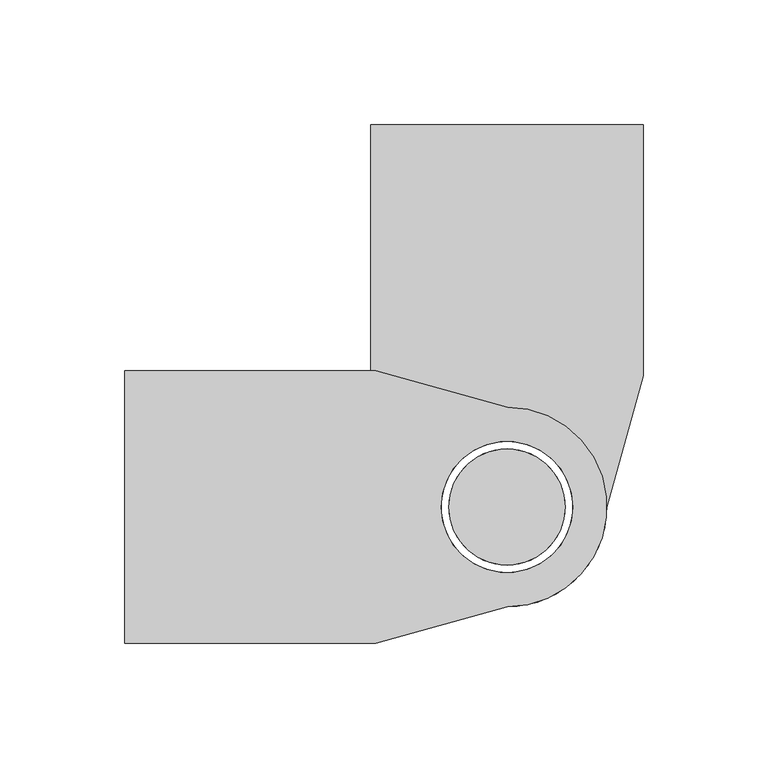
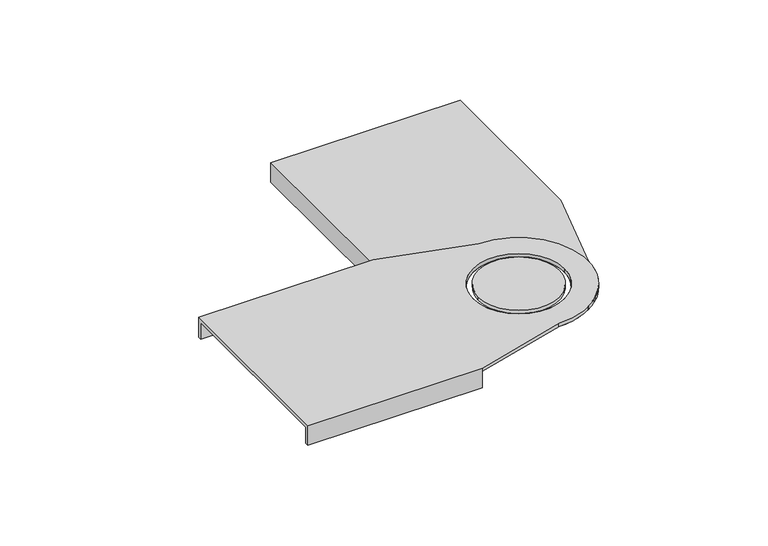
"""IFC4 building model written with IfcOpenShell, lengths in millimetres: cable carrier fitting geometry, BAKS_LD_BEND_Articulated connector_LGC : LGC_H100."""

from ifc_helpers import new_model, si_unit, frame, origin, place, context, project, spatial, polyline, circle_curve, source, transform, mapped, element, save
from ifc_brep_helpers import plane_surface, cylinder_surface, revolved_surface, advanced_brep


def cable_carrier_fitting_425c15d6(model_context):
    return source(origin(), model_context, "Body", "AdvancedBrep", [
        advanced_brep(
        [(-153.0, 54.5, 2.0), (-153.0, -54.5, 2.0), (-52.5, -54.5, 2.0), (0.0, -40.0, 2.0), (0.0, 40.0, 2.0), (-52.5, 54.5, 2.0), (26.25, 0.0, 2.0), (-26.25, 0.0, 2.0), (-52.5, -54.5, 0.0), (-52.5, -52.5, 0.0), (-153.0, -52.5, 0.0), (-153.0, 52.5, 0.0), (-52.5, 52.5, 0.0), (-52.5, 54.5, 0.0), (0.0, 40.0, 0.0), (0.0, -40.0, 0.0), (-26.25, 0.0, 0.0), (26.25, 0.0, 0.0), (-52.5, 54.5, -10.0), (-153.0, 54.5, -10.0), (-153.0, -54.5, -10.0), (-52.5, -54.5, -10.0), (-153.0, 52.5, -10.0), (-153.0, -52.5, -10.0), (-52.5, -52.5, -10.0), (-52.5, 52.5, -10.0)],
        [
            (0, 1),
            (1, 2),
            (2, 3),
            (3, 4, circle_curve(frame((0.0, 0.0, 2.0), z_axis=(0.0, 0.0, 1.0), x_axis=(-1.0, 0.0, 0.0)), 40.0)),
            (4, 5),
            (5, 0),
            (6, 7, circle_curve(frame((0.0, 0.0, 2.0), z_axis=(0.0, 0.0, -1.0), x_axis=(-1.0, 0.0, 0.0)), 26.25)),
            (7, 6, circle_curve(frame((0.0, 0.0, 2.0), z_axis=(0.0, 0.0, -1.0), x_axis=(-1.0, 0.0, 0.0)), 26.25)),
            (8, 9),
            (9, 10),
            (10, 11),
            (11, 12),
            (12, 13),
            (13, 14),
            (14, 15, circle_curve(frame((0.0, 0.0, 0.0), z_axis=(0.0, 0.0, -1.0), x_axis=(-1.0, 0.0, 0.0)), 40.0)),
            (15, 8),
            (16, 17, circle_curve(frame((0.0, 0.0, 0.0), z_axis=(0.0, 0.0, 1.0), x_axis=(-1.0, 0.0, 0.0)), 26.25)),
            (17, 16, circle_curve(frame((0.0, 0.0, 0.0), z_axis=(0.0, 0.0, 1.0), x_axis=(-1.0, 0.0, 0.0)), 26.25)),
            (5, 13),
            (13, 18),
            (18, 19),
            (19, 0),
            (1, 20),
            (20, 21),
            (21, 8),
            (8, 2),
            (19, 22),
            (22, 11),
            (10, 23),
            (23, 20),
            (7, 16),
            (17, 6),
            (4, 14),
            (3, 15),
            (23, 24),
            (24, 21),
            (9, 24),
            (18, 25),
            (25, 22),
            (12, 25),
        ],
        [
            plane_surface(frame((-52.5, 54.5, 2.0), z_axis=(0.0, 0.0, 1.0), x_axis=(1.0, 0.0, 0.0))),
            plane_surface(frame((-52.5, 54.5, 0.0), z_axis=(0.0, 0.0, -1.0), x_axis=(-1.0, 0.0, 0.0))),
            plane_surface(frame((-153.0, 54.5, 2.0), z_axis=(0.0, 1.0, 0.0), x_axis=(0.0, 0.0, -1.0))),
            plane_surface(frame((-52.5, -54.5, 2.0), z_axis=(0.0, -1.0, 0.0), x_axis=(0.0, 0.0, -1.0))),
            plane_surface(frame((-153.0, -54.5, 2.0), z_axis=(-1.0, 0.0, 0.0), x_axis=(0.0, 0.0, -1.0))),
            revolved_surface(polyline([(-26.25, 0.0, 2.0), (-26.25, 0.0, 0.0)]), (0.0, 0.0, 0.0), (0.0, 0.0, 1.0)),
            plane_surface(frame((-52.5, 54.5, 2.0), z_axis=(0.266223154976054, 0.9639114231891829, 0.0), x_axis=(0.0, 0.0, -1.0))),
            cylinder_surface(frame((0.0, 0.0, 0.0), z_axis=(0.0, 0.0, 1.0), x_axis=(-1.0, 0.0, 0.0)), 40.0),
            plane_surface(frame((0.0, -40.0, 2.0), z_axis=(0.26622315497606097, -0.963911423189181, 0.0), x_axis=(0.0, 0.0, -1.0))),
            plane_surface(frame((-52.5, -52.5, -10.0), z_axis=(0.0, 0.0, -1.0), x_axis=(-1.0, 0.0, 0.0))),
            plane_surface(frame((-153.0, -52.5, 0.0), z_axis=(0.0, 1.0, 0.0), x_axis=(0.0, 0.0, -1.0))),
            plane_surface(frame((-52.5, -52.5, 0.0), z_axis=(1.0, 0.0, 0.0), x_axis=(0.0, 0.0, -1.0))),
            plane_surface(frame((-52.5, 54.5, -10.0), z_axis=(0.0, 0.0, -1.0), x_axis=(-1.0, 0.0, 0.0))),
            plane_surface(frame((-52.5, 54.5, 0.0), z_axis=(1.0, 0.0, 0.0), x_axis=(0.0, 0.0, -1.0))),
            plane_surface(frame((-52.5, 52.5, 0.0), z_axis=(0.0, -1.0, 0.0), x_axis=(0.0, 0.0, -1.0))),
        ],
        [
            (0, [[1, 2, 3, 4, 5, 6], [7, 8]]),
            (1, [[9, 10, 11, 12, 13, 14, 15, 16], [17, 18]]),
            (2, [[19, 20, 21, 22, -6]]),
            (3, [[23, 24, 25, 26, -2]]),
            (4, [[27, 28, -11, 29, 30, -23, -1, -22]]),
            (5, [[-8, 31, -18, 32]]),
            (5, [[-17, -31, -7, -32]]),
            (6, [[33, -14, -19, -5]]),
            (7, [[34, -15, -33, -4]]),
            (8, [[-26, -16, -34, -3]]),
            (9, [[35, 36, -24, -30]]),
            (10, [[-29, -10, 37, -35]]),
            (11, [[-37, -9, -25, -36]]),
            (12, [[-21, 38, 39, -27]]),
            (13, [[-20, -13, 40, -38]]),
            (14, [[-40, -12, -28, -39]]),
        ],
    ),
        advanced_brep(
        [(23.25, 0.0, 2.0), (-23.25, 0.0, 2.0), (-23.25, 0.0, 0.0), (23.25, 0.0, 0.0)],
        [
            (0, 1, circle_curve(frame((0.0, 0.0, 2.0), z_axis=(0.0, 0.0, 1.0), x_axis=(-1.0, 0.0, 0.0)), 23.25)),
            (1, 0, circle_curve(frame((0.0, 0.0, 2.0), z_axis=(0.0, 0.0, 1.0), x_axis=(-1.0, 0.0, 0.0)), 23.25)),
            (2, 3, circle_curve(frame((0.0, 0.0, 0.0), z_axis=(0.0, 0.0, -1.0), x_axis=(-1.0, 0.0, 0.0)), 23.25)),
            (3, 2, circle_curve(frame((0.0, 0.0, 0.0), z_axis=(0.0, 0.0, -1.0), x_axis=(-1.0, 0.0, 0.0)), 23.25)),
            (1, 2),
            (3, 0),
        ],
        [
            plane_surface(frame((-52.5, 54.5, 2.0), z_axis=(0.0, 0.0, 1.0), x_axis=(1.0, 0.0, 0.0))),
            plane_surface(frame((-52.5, 54.5, 0.0), z_axis=(0.0, 0.0, -1.0), x_axis=(-1.0, 0.0, 0.0))),
            cylinder_surface(frame((0.0, 0.0, 0.0), z_axis=(0.0, 0.0, -1.0), x_axis=(-1.0, 0.0, 0.0)), 23.25),
        ],
        [
            (0, [[1, 2]]),
            (1, [[3, 4]]),
            (2, [[-2, 5, -4, 6]]),
            (2, [[-3, -5, -1, -6]]),
        ],
    ),
        advanced_brep(
        [(-54.5, 153.0, 2.0), (-54.5, 52.5, 2.0), (-40.0, 0.0, 2.0), (40.0, 0.0, 2.0), (54.5, 52.5, 2.0), (54.5, 153.0, 2.0), (0.0, -26.25, 2.0), (0.0, 26.25, 2.0), (54.5, 52.5, 0.0), (40.0, 0.0, 0.0), (-40.0, 0.0, 0.0), (-54.5, 52.5, 0.0), (-52.5, 52.5, 0.0), (-52.5, 153.0, 0.0), (52.5, 153.0, 0.0), (52.5, 52.5, 0.0), (0.0, 26.25, 0.0), (0.0, -26.25, 0.0), (-54.5, 153.0, -10.0), (-54.5, 52.5, -10.0), (54.5, 52.5, -10.0), (54.5, 153.0, -10.0), (52.5, 153.0, -10.0), (-52.5, 153.0, -10.0), (52.5, 52.5, -10.0), (-52.5, 52.5, -10.0)],
        [
            (0, 1),
            (1, 2),
            (2, 3, circle_curve(frame((0.0, 0.0, 2.0), z_axis=(0.0, 0.0, 1.0), x_axis=(0.0, 1.0, 0.0)), 40.0)),
            (3, 4),
            (4, 5),
            (5, 0),
            (6, 7, circle_curve(frame((0.0, 0.0, 2.0), z_axis=(0.0, 0.0, -1.0), x_axis=(0.0, 1.0, 0.0)), 26.25)),
            (7, 6, circle_curve(frame((0.0, 0.0, 2.0), z_axis=(0.0, 0.0, -1.0), x_axis=(0.0, 1.0, 0.0)), 26.25)),
            (8, 9),
            (9, 10, circle_curve(frame((0.0, 0.0, 0.0), z_axis=(0.0, 0.0, -1.0), x_axis=(0.0, 1.0, 0.0)), 40.0)),
            (10, 11),
            (11, 12),
            (12, 13),
            (13, 14),
            (14, 15),
            (15, 8),
            (16, 17, circle_curve(frame((0.0, 0.0, 0.0), z_axis=(0.0, 0.0, 1.0), x_axis=(0.0, 1.0, 0.0)), 26.25)),
            (17, 16, circle_curve(frame((0.0, 0.0, 0.0), z_axis=(0.0, 0.0, 1.0), x_axis=(0.0, 1.0, 0.0)), 26.25)),
            (0, 18),
            (18, 19),
            (19, 11),
            (11, 1),
            (4, 8),
            (8, 20),
            (20, 21),
            (21, 5),
            (21, 22),
            (22, 14),
            (13, 23),
            (23, 18),
            (6, 17),
            (16, 7),
            (10, 2),
            (9, 3),
            (20, 24),
            (24, 22),
            (24, 15),
            (23, 25),
            (25, 19),
            (25, 12),
        ],
        [
            plane_surface(frame((-54.5, 52.5, 2.0), z_axis=(0.0, 0.0, 1.0), x_axis=(0.0, -1.0, 0.0))),
            plane_surface(frame((-54.5, 52.5, 0.0), z_axis=(0.0, 0.0, -1.0), x_axis=(0.0, 1.0, 0.0))),
            plane_surface(frame((-54.5, 153.0, 2.0), z_axis=(-1.0, 0.0, 0.0), x_axis=(0.0, 0.0, -1.0))),
            plane_surface(frame((54.5, 52.5, 2.0), z_axis=(1.0, 0.0, 0.0), x_axis=(0.0, 0.0, -1.0))),
            plane_surface(frame((54.5, 153.0, 2.0), z_axis=(0.0, 1.0, 0.0), x_axis=(0.0, 0.0, -1.0))),
            revolved_surface(polyline([(0.0, 26.25, 2.0), (0.0, 26.25, 0.0)]), (0.0, 0.0, 0.0), (0.0, 0.0, 1.0)),
            plane_surface(frame((-54.5, 52.5, 2.0), z_axis=(-0.9639114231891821, -0.26622315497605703, 0.0), x_axis=(0.0, 0.0, -1.0))),
            cylinder_surface(frame((0.0, 0.0, 0.0), z_axis=(0.0, 0.0, 1.0), x_axis=(0.0, 1.0, 0.0)), 40.0),
            plane_surface(frame((40.0, 0.0, 2.0), z_axis=(0.9639114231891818, -0.2662231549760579, 0.0), x_axis=(0.0, 0.0, -1.0))),
            plane_surface(frame((52.5, 52.5, -10.0), z_axis=(0.0, 0.0, -1.0), x_axis=(0.0, 1.0, 0.0))),
            plane_surface(frame((52.5, 153.0, 0.0), z_axis=(-1.0, 0.0, 0.0), x_axis=(0.0, 0.0, -1.0))),
            plane_surface(frame((52.5, 52.5, 0.0), z_axis=(0.0, -1.0, 0.0), x_axis=(0.0, 0.0, -1.0))),
            plane_surface(frame((-54.5, 52.5, -10.0), z_axis=(0.0, 0.0, -1.0), x_axis=(0.0, 1.0, 0.0))),
            plane_surface(frame((-54.5, 52.5, 0.0), z_axis=(0.0, -1.0, 0.0), x_axis=(0.0, 0.0, -1.0))),
            plane_surface(frame((-52.5, 52.5, 0.0), z_axis=(1.0, 0.0, 0.0), x_axis=(0.0, 0.0, -1.0))),
        ],
        [
            (0, [[1, 2, 3, 4, 5, 6], [7, 8]]),
            (1, [[9, 10, 11, 12, 13, 14, 15, 16], [17, 18]]),
            (2, [[-1, 19, 20, 21, 22]]),
            (3, [[-5, 23, 24, 25, 26]]),
            (4, [[-19, -6, -26, 27, 28, -14, 29, 30]]),
            (5, [[31, -17, 32, -7]]),
            (5, [[-31, -8, -32, -18]]),
            (6, [[-2, -22, -11, 33]]),
            (7, [[-3, -33, -10, 34]]),
            (8, [[-4, -34, -9, -23]]),
            (9, [[-27, -25, 35, 36]]),
            (10, [[-36, 37, -15, -28]]),
            (11, [[-35, -24, -16, -37]]),
            (12, [[-30, 38, 39, -20]]),
            (13, [[-39, 40, -12, -21]]),
            (14, [[-38, -29, -13, -40]]),
        ],
    ),
        advanced_brep(
        [(0.0, -23.25, 2.0), (0.0, 23.25, 2.0), (0.0, 23.25, 0.0), (0.0, -23.25, 0.0)],
        [
            (0, 1, circle_curve(frame((0.0, 0.0, 2.0), z_axis=(0.0, 0.0, 1.0), x_axis=(0.0, 1.0, 0.0)), 23.25)),
            (1, 0, circle_curve(frame((0.0, 0.0, 2.0), z_axis=(0.0, 0.0, 1.0), x_axis=(0.0, 1.0, 0.0)), 23.25)),
            (2, 3, circle_curve(frame((0.0, 0.0, 0.0), z_axis=(0.0, 0.0, -1.0), x_axis=(0.0, 1.0, 0.0)), 23.25)),
            (3, 2, circle_curve(frame((0.0, 0.0, 0.0), z_axis=(0.0, 0.0, -1.0), x_axis=(0.0, 1.0, 0.0)), 23.25)),
            (0, 3),
            (2, 1),
        ],
        [
            plane_surface(frame((-54.5, 52.5, 2.0), z_axis=(0.0, 0.0, 1.0), x_axis=(0.0, -1.0, 0.0))),
            plane_surface(frame((-54.5, 52.5, 0.0), z_axis=(0.0, 0.0, -1.0), x_axis=(0.0, 1.0, 0.0))),
            cylinder_surface(frame((0.0, 0.0, 0.0), z_axis=(0.0, 0.0, -1.0), x_axis=(0.0, 1.0, 0.0)), 23.25),
        ],
        [
            (0, [[1, 2]]),
            (1, [[3, 4]]),
            (2, [[5, -3, 6, -1]]),
            (2, [[-5, -2, -6, -4]]),
        ],
    ),
    ])


if __name__ == "__main__":
    model = new_model("IFC4")
    model_context = context("Model", 3, world=origin())
    ifc_project = project(units=[si_unit("LENGTHUNIT", "METRE", prefix="MILLI")], contexts=[model_context])
    site = spatial("IfcSite", under=ifc_project)
    building = spatial("IfcBuilding", under=site)
    placement = place(None, origin())
    cable_carrier_fitting_shape = cable_carrier_fitting_425c15d6(model_context)
    element("IfcCableCarrierFitting", 1, ObjectType="BAKS_LD_BEND_Articulated connector_LGC : LGC_H100", at=placement, inside=building, context=model_context, shape_type="MappedRepresentation", body=[
        mapped(cable_carrier_fitting_shape, transform((0.0, 0.0, 0.0), x_axis=(1.0, 0.0, 0.0), y_axis=(0.0, 1.0, 0.0), z_axis=(0.0, 0.0, 1.0))),
    ])
    save(model, "model.ifc")
